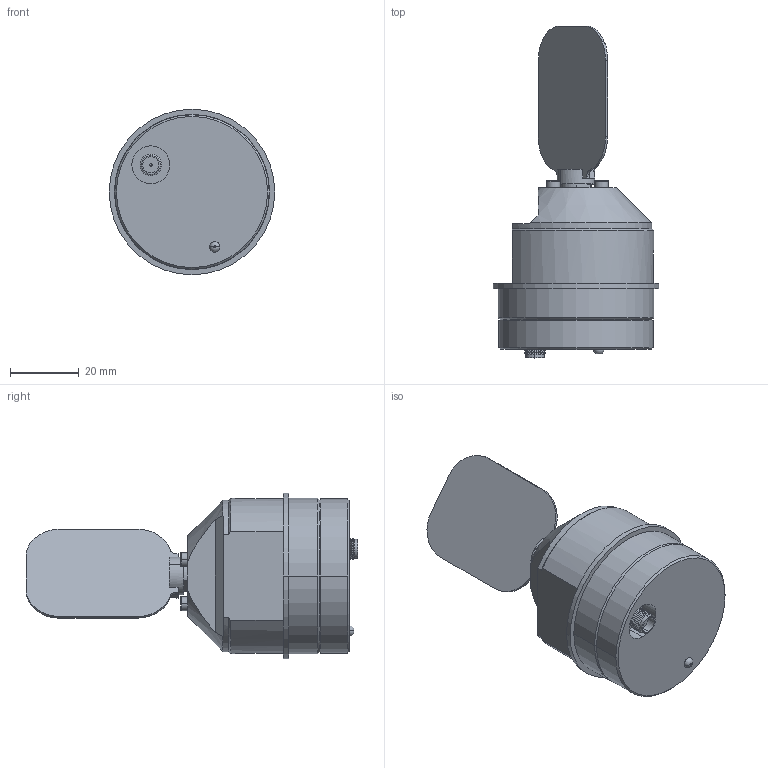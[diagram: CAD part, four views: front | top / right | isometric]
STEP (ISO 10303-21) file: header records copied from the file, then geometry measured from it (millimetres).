
FILE_DESCRIPTION (( 'STEP AP214' ), '1' );
FILE_NAME ('RTAY_A20_SiC.STEP', '2019-06-06T08:07:39', ( '' ), ( '' ), 'SwSTEP 2.0', 'SolidWorks 2011', '' );
FILE_SCHEMA (( 'AUTOMOTIVE_DESIGN' ));
Length unit declared in the file: millimetre
Products named in the file (5): socket head cap screw_iso_ISO 4762 M2 x 5 --- 5N; A20_SiC_MirrorY; Scanner_Draw10_4; Scanner_Solid; RTAY_A20_SiC
Assembly tree (5 placements, depth 2):
  RTAY_A20_SiC
    socket head cap screw_iso_ISO 4762 M2 x 5 --- 5N  x2
    Scanner_Solid
    Scanner_Draw10_4
    A20_SiC_MirrorY
Bounding box: 48 x 96.25 x 48 mm (x, y, z)
Volume: 67535.3 mm3; surface area: 13892.9 mm2
Topology: 5 solids, 5 shells, 267 faces, 630 edges, 387 vertices
Faces by surface type: plane 105, cylinder 88, cone 50, torus 16, bspline 8
Entity records: 8652 total; most frequent: CARTESIAN_POINT 1919, DIRECTION 1191, ORIENTED_EDGE 1140, EDGE_CURVE 570, AXIS2_PLACEMENT_3D 466, VERTEX_POINT 354, EDGE_LOOP 260, VECTOR 259
